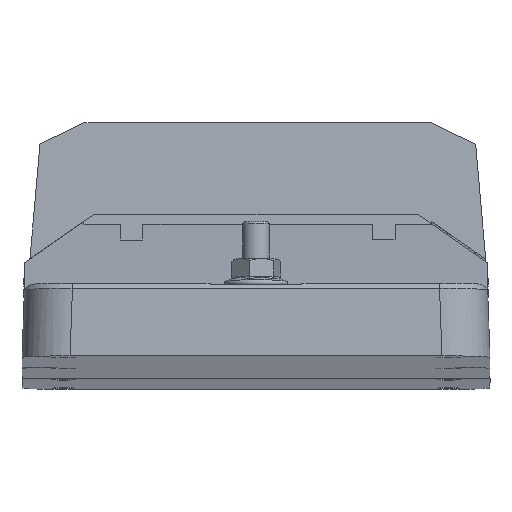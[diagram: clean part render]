
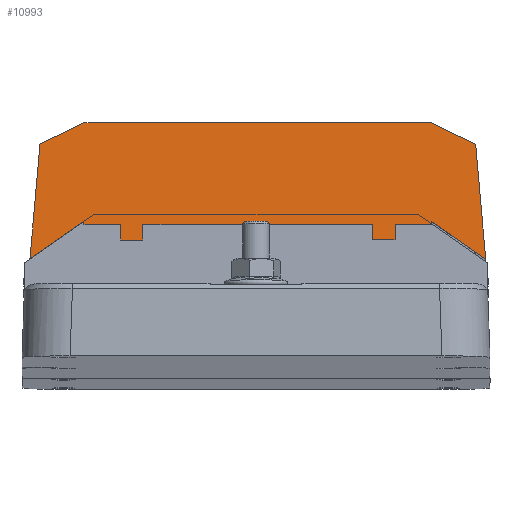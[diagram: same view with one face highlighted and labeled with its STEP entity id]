
A CAD part, top view. The second image highlights one B-rep face of the part: STEP entity #10993.
In plain terms, the highlighted planar face has unit normal (0, 0.07, 0.998) as drawn and (0, 0.999, 0.035) by its records, which use the part's own axes.
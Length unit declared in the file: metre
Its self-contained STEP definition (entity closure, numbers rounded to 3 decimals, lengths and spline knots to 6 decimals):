
#1069=ORIENTED_EDGE('',*,*,#4051,.F.);
#1070=ORIENTED_EDGE('',*,*,#4052,.T.);
#1071=ORIENTED_EDGE('',*,*,#4053,.F.);
#1072=ORIENTED_EDGE('',*,*,#4054,.T.);
#1073=ORIENTED_EDGE('',*,*,#4055,.T.);
#1074=ORIENTED_EDGE('',*,*,#4056,.T.);
#1075=ORIENTED_EDGE('',*,*,#4057,.T.);
#1076=ORIENTED_EDGE('',*,*,#4058,.T.);
#1077=ORIENTED_EDGE('',*,*,#4059,.T.);
#1078=ORIENTED_EDGE('',*,*,#4060,.F.);
#1079=ORIENTED_EDGE('',*,*,#4061,.F.);
#1080=ORIENTED_EDGE('',*,*,#4062,.F.);
#1081=ORIENTED_EDGE('',*,*,#4063,.F.);
#1082=ORIENTED_EDGE('',*,*,#4064,.F.);
#1083=ORIENTED_EDGE('',*,*,#4065,.T.);
#1084=ORIENTED_EDGE('',*,*,#4066,.T.);
#1085=ORIENTED_EDGE('',*,*,#4067,.T.);
#1086=ORIENTED_EDGE('',*,*,#4068,.T.);
#4051=EDGE_CURVE('',#5571,#5572,#6593,.T.);
#4052=EDGE_CURVE('',#5571,#5573,#6594,.T.);
#4053=EDGE_CURVE('',#5574,#5573,#6595,.T.);
#4054=EDGE_CURVE('',#5574,#5575,#6596,.F.);
#4055=EDGE_CURVE('',#5575,#5576,#6597,.T.);
#4056=EDGE_CURVE('',#5576,#5577,#6598,.T.);
#4057=EDGE_CURVE('',#5577,#5578,#6599,.F.);
#4058=EDGE_CURVE('',#5578,#5579,#6600,.T.);
#4059=EDGE_CURVE('',#5579,#5580,#6601,.T.);
#4060=EDGE_CURVE('',#5581,#5580,#6602,.T.);
#4061=EDGE_CURVE('',#5582,#5581,#6603,.T.);
#4062=EDGE_CURVE('',#5583,#5582,#6604,.T.);
#4063=EDGE_CURVE('',#5584,#5583,#6605,.T.);
#4064=EDGE_CURVE('',#5585,#5584,#6606,.T.);
#4065=EDGE_CURVE('',#5585,#5586,#6607,.T.);
#4066=EDGE_CURVE('',#5586,#5587,#6608,.T.);
#4067=EDGE_CURVE('',#5587,#5588,#6609,.T.);
#4068=EDGE_CURVE('',#5588,#5572,#6610,.T.);
#5571=VERTEX_POINT('',#16375);
#5572=VERTEX_POINT('',#16376);
#5573=VERTEX_POINT('',#16378);
#5574=VERTEX_POINT('',#16380);
#5575=VERTEX_POINT('',#16382);
#5576=VERTEX_POINT('',#16384);
#5577=VERTEX_POINT('',#16386);
#5578=VERTEX_POINT('',#16388);
#5579=VERTEX_POINT('',#16390);
#5580=VERTEX_POINT('',#16392);
#5581=VERTEX_POINT('',#16394);
#5582=VERTEX_POINT('',#16396);
#5583=VERTEX_POINT('',#16398);
#5584=VERTEX_POINT('',#16400);
#5585=VERTEX_POINT('',#16402);
#5586=VERTEX_POINT('',#16404);
#5587=VERTEX_POINT('',#16406);
#5588=VERTEX_POINT('',#16408);
#6593=LINE('',#16374,#7770);
#6594=LINE('',#16377,#7771);
#6595=LINE('',#16379,#7772);
#6596=LINE('',#16381,#7773);
#6597=LINE('',#16383,#7774);
#6598=LINE('',#16385,#7775);
#6599=LINE('',#16387,#7776);
#6600=LINE('',#16389,#7777);
#6601=LINE('',#16391,#7778);
#6602=LINE('',#16393,#7779);
#6603=LINE('',#16395,#7780);
#6604=LINE('',#16397,#7781);
#6605=LINE('',#16399,#7782);
#6606=LINE('',#16401,#7783);
#6607=LINE('',#16403,#7784);
#6608=LINE('',#16405,#7785);
#6609=LINE('',#16407,#7786);
#6610=LINE('',#16409,#7787);
#7770=VECTOR('',#12961,1.);
#7771=VECTOR('',#12962,1.);
#7772=VECTOR('',#12963,1.);
#7773=VECTOR('',#12964,1.);
#7774=VECTOR('',#12965,1.);
#7775=VECTOR('',#12966,1.);
#7776=VECTOR('',#12967,1.);
#7777=VECTOR('',#12968,1.);
#7778=VECTOR('',#12969,1.);
#7779=VECTOR('',#12970,1.);
#7780=VECTOR('',#12971,1.);
#7781=VECTOR('',#12972,1.);
#7782=VECTOR('',#12973,1.);
#7783=VECTOR('',#12974,1.);
#7784=VECTOR('',#12975,1.);
#7785=VECTOR('',#12976,1.);
#7786=VECTOR('',#12977,1.);
#7787=VECTOR('',#12978,1.);
#8976=EDGE_LOOP('',(#1069,#1070,#1071,#1072,#1073,#1074,#1075,#1076,#1077,
#1078,#1079,#1080,#1081,#1082,#1083,#1084,#1085,#1086));
#9753=FACE_BOUND('',#8976,.T.);
#10482=PLANE('',#11774);
#10993=ADVANCED_FACE('',(#9753),#10482,.T.);
#11774=AXIS2_PLACEMENT_3D('',#16373,#12959,#12960);
#12959=DIRECTION('',(0.,0.999,0.035));
#12960=DIRECTION('',(0.,-0.035,0.999));
#12961=DIRECTION('',(0.,0.035,-0.999));
#12962=DIRECTION('',(-0.819,0.02,-0.573));
#12963=DIRECTION('',(-0.087,0.035,-0.996));
#12964=DIRECTION('',(-0.894,0.016,-0.447));
#12965=DIRECTION('',(1.,0.,0.));
#12966=DIRECTION('',(0.894,0.016,-0.447));
#12967=DIRECTION('',(-0.087,-0.035,0.996));
#12968=DIRECTION('',(-0.819,-0.02,0.573));
#12969=DIRECTION('',(0.,0.035,-0.999));
#12970=DIRECTION('',(1.,0.,0.));
#12971=DIRECTION('',(0.,-0.035,0.999));
#12972=DIRECTION('',(1.,0.,0.));
#12973=DIRECTION('',(0.,0.035,-0.999));
#12974=DIRECTION('',(1.,0.,0.));
#12975=DIRECTION('',(0.,0.035,-0.999));
#12976=DIRECTION('',(-1.,0.,0.));
#12977=DIRECTION('',(0.,-0.035,0.999));
#12978=DIRECTION('',(-1.,0.,0.));
#16373=CARTESIAN_POINT('',(0.042125,0.05515,0.));
#16374=CARTESIAN_POINT('',(0.01,0.05515,0.));
#16375=CARTESIAN_POINT('',(0.01,0.054905,0.007002));
#16376=CARTESIAN_POINT('',(0.01,0.054926,0.006424));
#16377=CARTESIAN_POINT('',(0.028255,0.054459,0.019784));
#16378=CARTESIAN_POINT('',(0.,0.05515,0.));
#16379=CARTESIAN_POINT('',(0.000084,0.055117,0.000954));
#16380=CARTESIAN_POINT('',(0.001858,0.054408,0.021239));
#16381=CARTESIAN_POINT('',(0.02556,0.053994,0.03309));
#16382=CARTESIAN_POINT('',(0.01,0.054266,0.02531));
#16383=CARTESIAN_POINT('',(0.042125,0.054266,0.02531));
#16384=CARTESIAN_POINT('',(0.07425,0.054266,0.02531));
#16385=CARTESIAN_POINT('',(0.05869,0.053994,0.03309));
#16386=CARTESIAN_POINT('',(0.082392,0.054408,0.021239));
#16387=CARTESIAN_POINT('',(0.084166,0.055117,0.000954));
#16388=CARTESIAN_POINT('',(0.08425,0.05515,0.));
#16389=CARTESIAN_POINT('',(0.055995,0.054459,0.019784));
#16390=CARTESIAN_POINT('',(0.07425,0.054905,0.007002));
#16391=CARTESIAN_POINT('',(0.07425,0.05515,0.));
#16392=CARTESIAN_POINT('',(0.07425,0.054926,0.006424));
#16393=CARTESIAN_POINT('',(0.042125,0.054926,0.006424));
#16394=CARTESIAN_POINT('',(0.067485,0.054926,0.006424));
#16395=CARTESIAN_POINT('',(0.067485,0.05515,0.));
#16396=CARTESIAN_POINT('',(0.067485,0.055026,0.003547));
#16397=CARTESIAN_POINT('',(0.042125,0.055026,0.003547));
#16398=CARTESIAN_POINT('',(0.063354,0.055026,0.003547));
#16399=CARTESIAN_POINT('',(0.063354,0.05515,0.));
#16400=CARTESIAN_POINT('',(0.063354,0.054926,0.006424));
#16401=CARTESIAN_POINT('',(0.042125,0.054926,0.006424));
#16402=CARTESIAN_POINT('',(0.020896,0.054926,0.006424));
#16403=CARTESIAN_POINT('',(0.020896,0.05515,0.));
#16404=CARTESIAN_POINT('',(0.020896,0.055024,0.003609));
#16405=CARTESIAN_POINT('',(0.042125,0.055024,0.003609));
#16406=CARTESIAN_POINT('',(0.016765,0.055024,0.003609));
#16407=CARTESIAN_POINT('',(0.016765,0.05515,0.));
#16408=CARTESIAN_POINT('',(0.016765,0.054926,0.006424));
#16409=CARTESIAN_POINT('',(0.042125,0.054926,0.006424));
